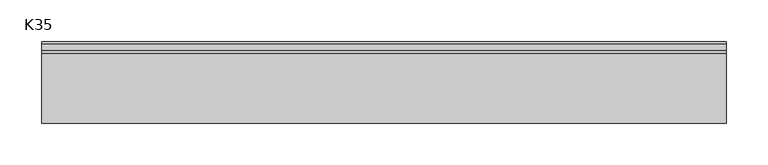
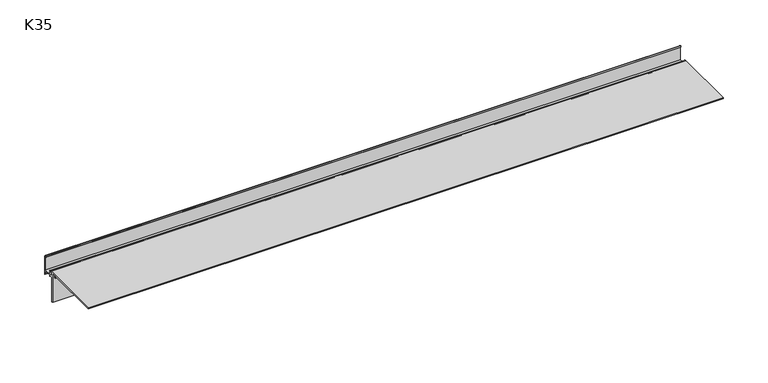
"""IFC4 building model written with IfcOpenShell, lengths in millimetres: proxy geometry, K35 Profil okapowy prosty z rynną : K35."""

from ifc_helpers import new_model, si_unit, point, frame, frame_2d, origin, place, context, project, spatial, polyline, circle_curve, trimmed, segment, composite_curve, outline, extrude, source, transform, mapped, element, save


def k35_04bc4968(model_context):
    return source(origin(), model_context, "Body", "SweptSolid", [
        extrude(outline(composite_curve([segment(trimmed(circle_curve(frame_2d((-0.4087938, -2.8812097)), 2.9102158), [point((0.0010677, 0.0))], [point((2.5010677, -2.8358001))], False, "CARTESIAN"), True, "CONTINUOUS"), segment(polyline([(2.5010677, -2.8358001), (2.5010677, -26.8), (1.0010677, -25.549015), (1.0010677, -21.1829113), (-8.5231229, -21.1829113), (-8.5231229, -22.7095005), (-10.049712, -21.1829113), (-13.5989323, -21.1829113), (-13.5989323, -54.7), (-15.0989323, -54.7), (-15.0989323, -14.9), (-20.0989323, -14.9), (-20.0989323, -17.8969711), (-21.5989323, -17.8969711), (-21.5989323, -14.9), (-95.0989323, -14.9), (-95.0989323, -13.5), (-11.0612599, -13.5)]), True, "CONTINUOUS"), segment(trimmed(circle_curve(frame_2d((-11.0612599, -16.1266316)), 2.6266316), [point((-11.0612599, -13.5))], [point((-8.4405044, -16.3022282))], False, "CARTESIAN"), True, "CONTINUOUS"), segment(polyline([(-8.4405044, -16.3022282), (-9.9435317, -16.3022282)]), True, "CONTINUOUS"), segment(trimmed(circle_curve(frame_2d((-11.3457599, -16.3022282)), 1.4022282), [point((-9.9435317, -16.3022282))], [point((-11.3457599, -14.9))], True, "CARTESIAN"), True, "CONTINUOUS"), segment(polyline([(-11.3457599, -14.9), (-13.1366439, -14.9), (-13.1366439, -19.6829113), (1.0010677, -19.6829113), (1.0010677, -2.8358001)]), True, "CONTINUOUS"), segment(trimmed(circle_curve(frame_2d((0.0010677, -2.8358001)), 1.0), [point((1.0010677, -2.8358001))], [point((0.0010677, -1.8358001))], True, "CARTESIAN"), True, "CONTINUOUS"), segment(polyline([(0.0010677, -1.8358001), (0.0010677, 0.0)]), True, "CONTINUOUS")], self_intersect=False)), frame((0.0, 0.0, 0.0), z_axis=(1.0, 0.0, 0.0), x_axis=(0.0, 1.0, 0.0)), (0.0, 0.0, 1.0), 820.0),
    ])


if __name__ == "__main__":
    model = new_model("IFC4")
    model_context = context("Model", 3, world=origin())
    ifc_project = project(units=[si_unit("LENGTHUNIT", "METRE", prefix="MILLI")], contexts=[model_context])
    site = spatial("IfcSite", under=ifc_project)
    building = spatial("IfcBuilding", under=site)
    placement = place(None, origin())
    k35_shape = k35_04bc4968(model_context)
    element("IfcBuildingElementProxy", 1, Name="K35 Profil okapowy prosty z rynną : K35", ObjectType="K35 Profil okapowy prosty z rynną : K35", at=placement, inside=building, context=model_context, shape_type="MappedRepresentation", body=[
        mapped(k35_shape, transform((0.0, 0.0, 0.0), x_axis=(1.0, 0.0, 0.0), y_axis=(0.0, 1.0, 0.0), z_axis=(0.0, 0.0, 1.0))),
    ])
    save(model, "model.ifc")
